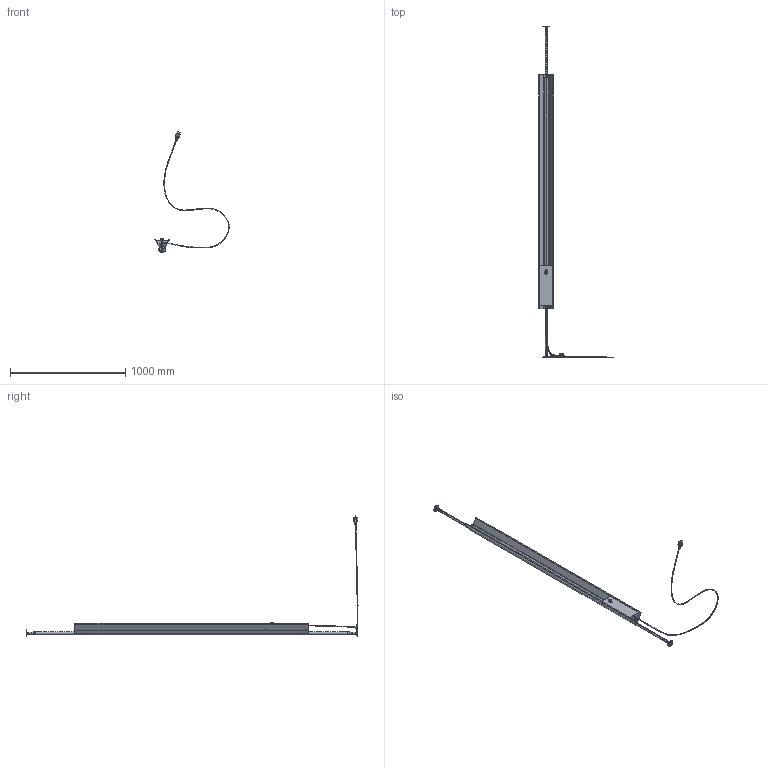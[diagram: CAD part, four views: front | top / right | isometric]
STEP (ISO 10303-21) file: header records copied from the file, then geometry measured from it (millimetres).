
FILE_DESCRIPTION (( 'STEP AP203' ), '1' );
FILE_NAME ('ATP-T13-F101-R00_27.STEP', '2023-06-27T12:53:46', ( '' ), ( '' ), 'SwSTEP 2.0', 'SolidWorks 2023', '' );
FILE_SCHEMA (( 'CONFIG_CONTROL_DESIGN' ));
Length unit declared in the file: millimetre
Products named in the file (22): ATC-T13-F105-R01; ATC-T13-F115-R00; ATC-T13-F101-R00; ATC-T13-F111-R00; Viti a Testa Bombata e Cava Esagonale ISO-7380_VITE M3X10 TBCE ISO-7380 ; ATC-T13-F102-R00; ATC-T13-F108-R00; ATC-T13-F116-R00; Elesa M8 Indexing plungers GN 717-5-M8-D-ST; Rondelle Piatte ISO-7089_RONDELLA M3 PIANA; ATA-T13-F103-R00; ATA-T13-F101-R00; ATC-T13-F110-R00; ATC-T13-F118-R00; ATC-T13-F112-R00; ATP-T13-F101-R00_27; ATC-T13-F113-R00; ATC-T13-F107-R00_IN POSIZIONE; Nipple con doppia Fresata AVS 15XX-FR; Head GN 717-5-M8-D-ST(0); Base GN 717-5-M8-D-ST(0); ATC-T13-F109-R00
Assembly tree (31 placements, depth 4):
  ATP-T13-F101-R00_27
    Nipple con doppia Fresata AVS 15XX-FR
    Rondelle Piatte ISO-7089_RONDELLA M3 PIANA  x3
    Viti a Testa Bombata e Cava Esagonale ISO-7380_VITE M3X10 TBCE ISO-7380   x3
    Elesa M8 Indexing plungers GN 717-5-M8-D-ST  x2
      Head GN 717-5-M8-D-ST(0)
      Base GN 717-5-M8-D-ST(0)
    ATA-T13-F103-R00  x2
      ATA-T13-F101-R00
        ATC-T13-F111-R00
        ATC-T13-F110-R00
    ATC-T13-F101-R00
    ATC-T13-F107-R00_IN POSIZIONE
    ATC-T13-F112-R00  x2
    ATC-T13-F113-R00  x2
    ATC-T13-F115-R00  x2
    ATC-T13-F102-R00
    ATC-T13-F108-R00
    ATC-T13-F116-R00
    ATC-T13-F105-R01
    ATC-T13-F109-R00  x2
    ATC-T13-F118-R00
Bounding box: 645.99 x 2883.79 x 1051.66 mm (x, y, z)
Volume: 3347850.3 mm3; surface area: 1745686.1 mm2
Topology: 36 solids, 40 shells, 1091 faces, 2863 edges, 1783 vertices
Faces by surface type: cylinder 464, plane 353, bspline 160, cone 104, torus 10
Entity records: 41499 total; most frequent: CARTESIAN_POINT 19116, ORIENTED_EDGE 4382, DIRECTION 3831, EDGE_CURVE 2193, AXIS2_PLACEMENT_3D 1443, VERTEX_POINT 1370, LINE 945, VECTOR 945
